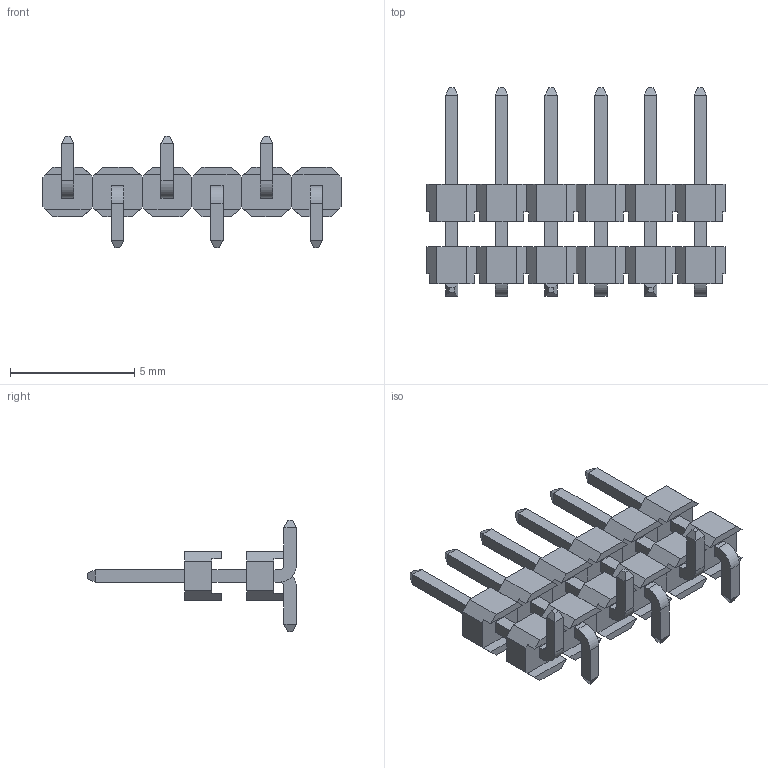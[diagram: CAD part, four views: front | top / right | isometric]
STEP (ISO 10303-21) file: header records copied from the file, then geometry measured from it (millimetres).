
FILE_DESCRIPTION(/* description */ (''),/* implementation_level */ '2;1');
FILE_NAME(/* name */ 'PZ200-1-06-S-C4.0-XX-X-DP(L8.4)(2.00 单排 排针 双塑 贴片-HCTL).stp',/* time_stamp */ '2026-10-23T09:23:19+08:00',/* author */ (''),/* organization */ (''),/* preprocessor_version */ 'ST-DEVELOPER v16',/* originating_system */ 'SIEMENS PLM Software NX 10.0',/* authorisation */ '');
FILE_SCHEMA (('AUTOMOTIVE_DESIGN { 1 0 10303 214 3 1 1 1 }'));
Length unit declared in the file: millimetre
Products named in the file (1): PZ200-1-N-S-C4.0-XX-X-DP(L8.4)(2.00 单排 排针 
双塑 贴片-HCTL)
Bounding box: 12 x 8.4 x 4.5 mm (x, y, z)
Volume: 64.5 mm3; surface area: 305.7 mm2
Topology: 6 solids, 6 shells, 336 faces, 864 edges, 552 vertices
Faces by surface type: plane 324, cylinder 12
Entity records: 11124 total; most frequent: CARTESIAN_POINT 1753, ORIENTED_EDGE 1728, DIRECTION 1562, EDGE_CURVE 864, LINE 840, VECTOR 840, VERTEX_POINT 552, AXIS2_PLACEMENT_3D 361
